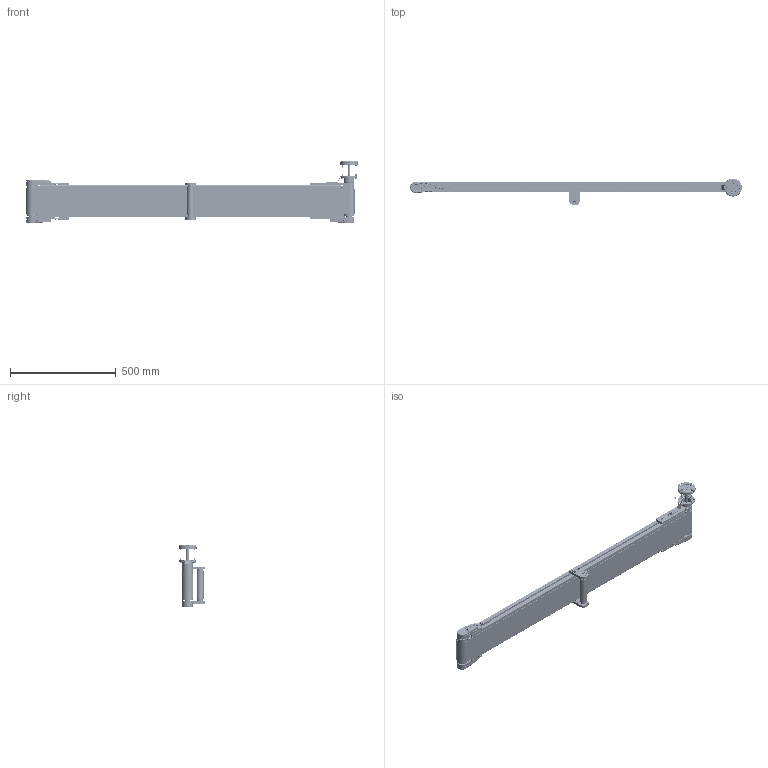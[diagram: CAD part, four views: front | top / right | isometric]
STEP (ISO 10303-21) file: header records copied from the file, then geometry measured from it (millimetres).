
FILE_DESCRIPTION (( 'STEP AP203' ), '1' );
FILE_NAME ('NASTRO_RETTILINEO_TAPPETO.step', '2026-04-27T07:35:14', ( 'Utente Windows' ), ( '' ), 'SwSTEP 2.0', 'SolidWorks 2024', '' );
FILE_SCHEMA (( 'CONFIG_CONTROL_DESIGN' ));
Length unit declared in the file: millimetre
Products named in the file (49): 084.810.001; BLOCCO_TRAINO_50_STANDARD; 084.811.004; VITI TCEI UNI 5931_M4x10 UNI 5931; BLOCCO_REGGITAPPETO; LAMIERA_STANDARD; VITI TCEI UNI 5931_M6x12 UNI 5931; 084.301.000 VITI ALUSIC_084.301.003; VITE_DADO_M5X12; TAPPETO_STANDARD; VITI TSEI UNI 5933_M5x12 UNI 5933; 084.802.061; 084.302.000 DADI ALUSIC 13x13-1_084.302.007; VITI TSEI UNI 5933_M4x12 UNI 5933; 084.808.012; 14UNI7435; BLOCCO_TRAINO_50_STANDARD_30_DX; 084.811.001; 084.807.002_084.807.002; CHIAVETTE_A 5x5x20 UNI 6604-69; 084.807.004_084.807.004; 084.802.008; RONDELLE FASCIA LARGA UNI 6593_5.4x20 UNI 6593; RULLO_REGGITAPPETO; 084.802.017_084.802.017; 084.301.000 VITI ALUSIC_084.301.009; 084.802.065_Default<A macchina>; VITI TE UNI 5739_M6x16 UNI 5739; VITE_RONDELLA_M8X20; 084.802.062; 084.302.000 DADI ALUSIC 13x13-1_084.302.004; 084.802.071; BLOCCO_PERNO_50_30; VITI TCEI UNI 5931_M4x25 UNI 5931; BLOCCO_BRACCIO_CH03P_VF30P; NASTRO_RETTILINEO_TAPPETO; BLOCCO_RINVIO_50_CORTA; 084.802.014; 084.302.000 DADI ALUSIC 13x13_084.302.004; BLOCCO_PERNO_50_RINVIO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
Assembly tree (97 placements, depth 4):
  NASTRO_RETTILINEO_TAPPETO
    TAPPETO_STANDARD
    TELAIO_50_STANDARD_Default<A macchina>
    LAMIERA_STANDARD
    RULLO_50_Default<A macchina>  x2
    BLOCCO_PERNO_50_30
      084.810.001
      084.811.001
      RONDELLE FASCIA LARGA UNI 6593_5.4x20 UNI 6593
      084.301.000 VITI ALUSIC_084.301.009
      CHIAVETTE_A 5x5x40 UNI 6604-69
      CHIAVETTE_A 5x5x20 UNI 6604-69
      14UNI7435
    BLOCCO_TRAINO_50_STANDARD_30_DX
      084.807.003_084.807.003<A macchina>
      084.802.017_084.802.017
      084.301.000 VITI ALUSIC_084.301.003  x2
      084.302.000 DADI ALUSIC 13x13-1_084.302.004  x2
      BLOCCO_BRACCIO_CH03P_VF30P
        084.808.012
        084.802.062
        084.802.061
        VITI TE UNI 5739_M6x16 UNI 5739  x4
        084.803.018
        VITI TCEI UNI 5931_M6x12 UNI 5931  x4
      084.802.065_Default<A macchina>
      VITI TCEI UNI 5931_M4x25 UNI 5931  x2
    BLOCCO_PERNO_50_RINVIO  x3
      084.811.004
      084.810.001
    BLOCCO_TRAINO_50_STANDARD
      084.807.002_084.807.002
      084.802.017_084.802.017
      084.301.000 VITI ALUSIC_084.301.003  x2
      084.302.000 DADI ALUSIC 13x13-1_084.302.004  x2
      VITI TSEI UNI 5933_M4x12 UNI 5933  x4
      084.802.071
      VITI TSEI UNI 5933 INOX_0412UNI5933A2  x2
    BLOCCO_RINVIO_50_CORTA  x2
      084.807.004_084.807.004
      084.802.017_084.802.017
      084.802.008
      084.301.000 VITI ALUSIC_084.301.003
      084.302.000 DADI ALUSIC 13x13_084.302.004
      VITI TCEI UNI 5931_M4x10 UNI 5931
      084.802.071
    VITE_RONDELLA_M8X20  x5
      084.303.001
      084.301.000 VITI ALUSIC_084.301.003
    VITE_DADO_M5X12  x8
      084.302.000 DADI ALUSIC 13x13-1_084.302.007
      VITI TSEI UNI 5933_M5x12 UNI 5933
    BLOCCO_REGGITAPPETO  x2
      084.301.000 VITI ALUSIC_084.301.003
      084.302.000 DADI ALUSIC 13x13-1_084.302.004
      084.802.017_084.802.017
      084.802.028
      084.802.014
      084.802.013-2
    RULLO_REGGITAPPETO
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Bounding box: 1569.5 x 126.5 x 291.5 mm (x, y, z)
Volume: 3792937.7 mm3; surface area: 3528150.5 mm2
Topology: 142 solids, 148 shells, 6445 faces, 16762 edges, 10788 vertices
Faces by surface type: plane 3218, cylinder 1647, cone 583, bspline 562, torus 389, sphere 46
Entity records: 127887 total; most frequent: CARTESIAN_POINT 37148, ORIENTED_EDGE 18304, DIRECTION 16820, EDGE_CURVE 9152, VERTEX_POINT 5945, AXIS2_PLACEMENT_3D 5819, VECTOR 5182, LINE 5182
